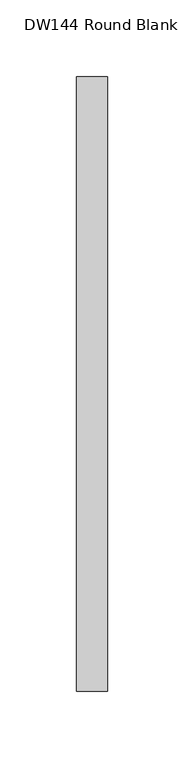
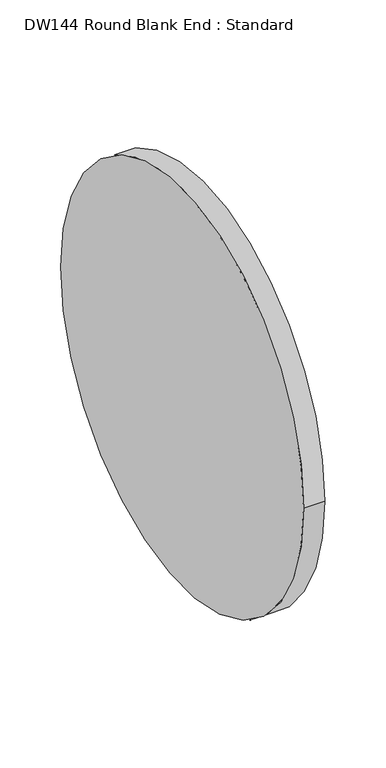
"""IFC4 building model written with IfcOpenShell, lengths in millimetres: duct fitting geometry, DW144 Round Blank End : Standard."""

from ifc_helpers import new_model, si_unit, point, frame, origin, origin_2d, place, context, project, spatial, circle_curve, trimmed, segment, composite_curve, outline, extrude, source, transform, mapped, element, save


def dw144_round_blank_end_standard_f82b0856(model_context):
    return source(origin(), model_context, "Body", "SweptSolid", [
        extrude(outline(composite_curve([segment(trimmed(circle_curve(origin_2d(), 200.0), [point((200.0, 0.0))], [point((-200.0, 0.0))], False, "CARTESIAN"), True, "CONTINUOUS"), segment(trimmed(circle_curve(origin_2d(), 200.0), [point((-200.0, 0.0))], [point((200.0, 0.0))], False, "CARTESIAN"), True, "CONTINUOUS")], self_intersect=False)), frame((0.0, 0.0, 0.0), z_axis=(1.0, 0.0, 0.0), x_axis=(0.0, 1.0, 0.0)), (0.0, 0.0, 1.0), 20.0),
    ])


if __name__ == "__main__":
    model = new_model("IFC4")
    model_context = context("Model", 3, world=origin())
    ifc_project = project(units=[si_unit("LENGTHUNIT", "METRE", prefix="MILLI")], contexts=[model_context])
    site = spatial("IfcSite", under=ifc_project)
    building = spatial("IfcBuilding", under=site)
    placement = place(None, origin())
    dw144_round_blank_end_standard_shape = dw144_round_blank_end_standard_f82b0856(model_context)
    element("IfcDuctFitting", 1, ObjectType="DW144 Round Blank End : Standard", at=placement, inside=building, context=model_context, shape_type="MappedRepresentation", body=[
        mapped(dw144_round_blank_end_standard_shape, transform((0.0, 0.0, 0.0), x_axis=(1.0, 0.0, 0.0), y_axis=(0.0, 1.0, 0.0), z_axis=(0.0, 0.0, 1.0))),
    ])
    save(model, "model.ifc")
